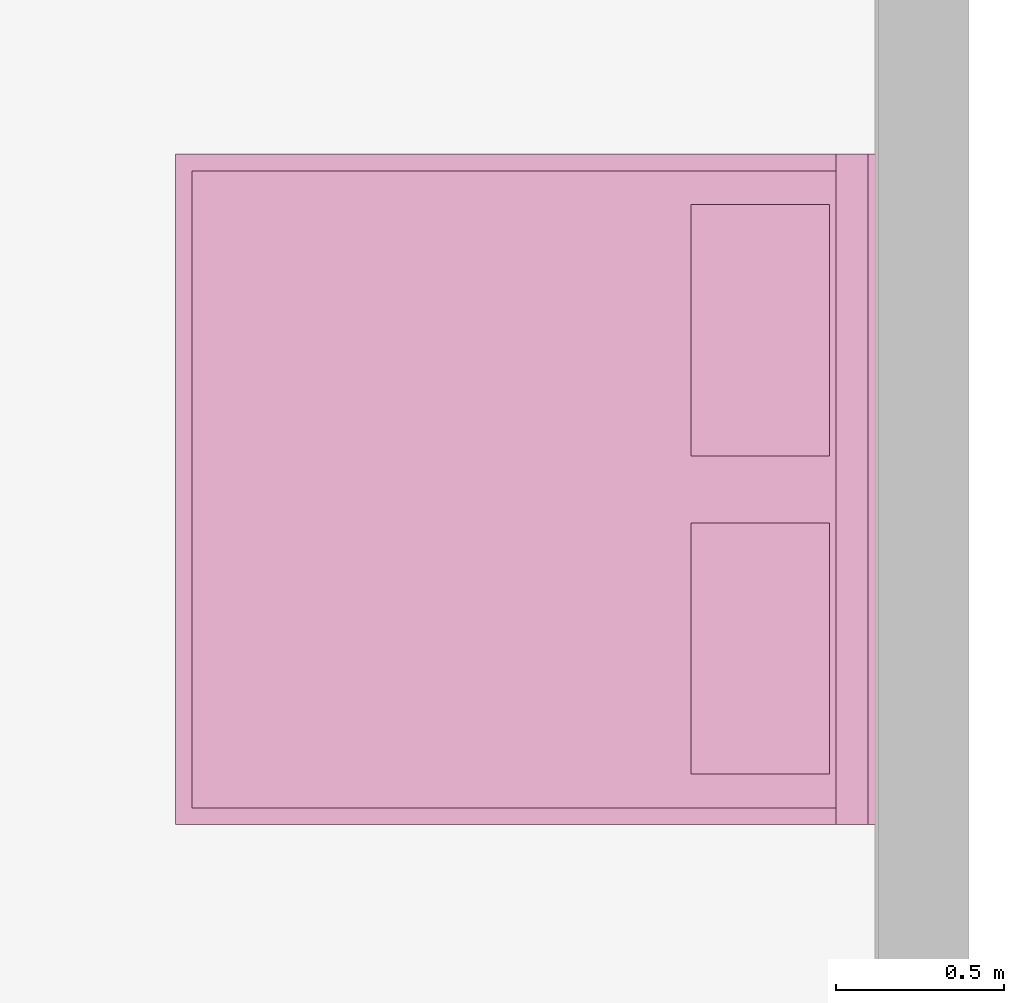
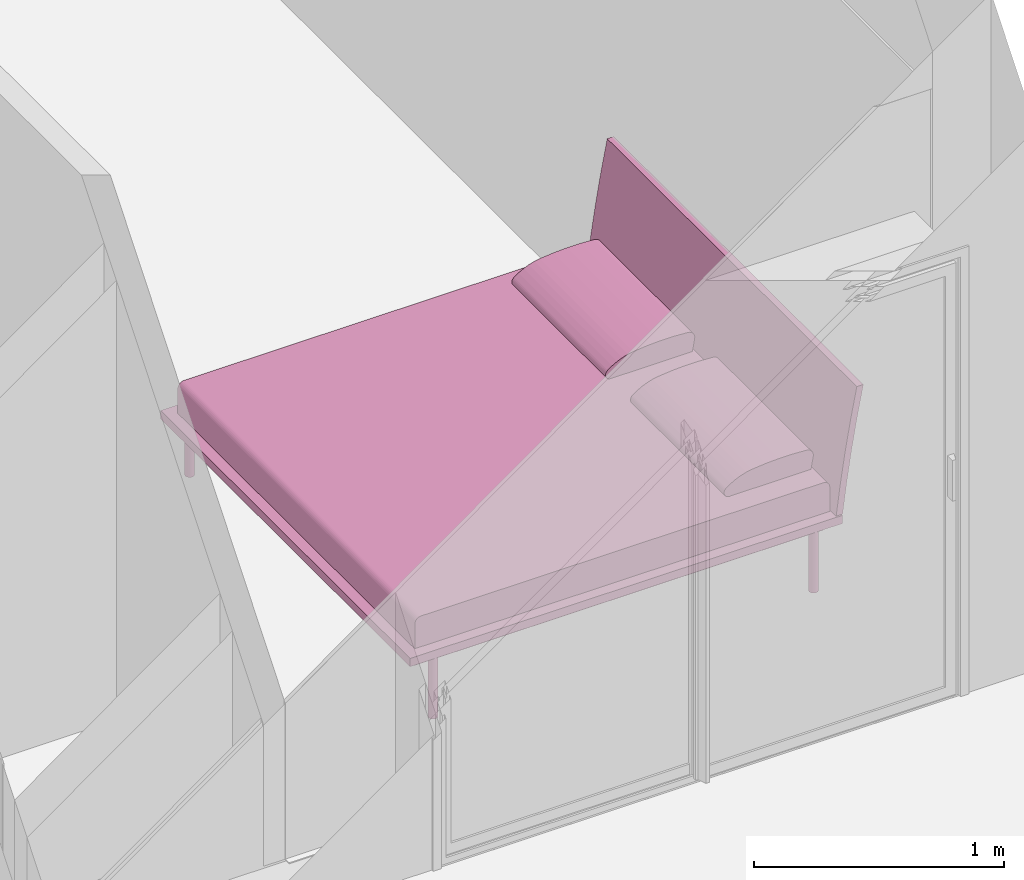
# One storey, part 79 of 81: 1 furnishing.
"""IFC2X3 building model written with IfcOpenShell, lengths in metres."""

from ifc_helpers import new_model, entity, si_unit, converted_unit, derived_unit, direction, frame, frame_2d, origin, origin_2d_with_axis, place, context, subcontext, project, spatial, polyline, circle_curve, parameter, trimmed, segment, composite_curve, rectangle, circle, outline, extrude, source, transform, mapped, material, material_list, type_object, type_shapes, element, save


model = new_model("IFC2X3")

# Units and contexts
model_context = context("Model", 3, precision=1e-05, world=origin(), true_north=direction((6.12303176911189e-17, 1.0)))
body_context = subcontext(model_context, "Body", "Model", "MODEL_VIEW")
ifc_project = project(units=[si_unit("LENGTHUNIT", "METRE"), si_unit("AREAUNIT", "SQUARE_METRE"), si_unit("VOLUMEUNIT", "CUBIC_METRE"), converted_unit("PLANEANGLEUNIT", "DEGREE", entity("IfcRatioMeasure", 0.0174532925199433), si_unit("PLANEANGLEUNIT", "RADIAN"), dimensions=[0, 0, 0, 0, 0, 0, 0]), si_unit("MASSUNIT", "GRAM", prefix="KILO"), derived_unit("MASSDENSITYUNIT", [(si_unit("MASSUNIT", "GRAM", prefix="KILO"), 1), (si_unit("LENGTHUNIT", "METRE"), -3)]), derived_unit("MOMENTOFINERTIAUNIT", [(si_unit("LENGTHUNIT", "METRE"), 4)]), si_unit("TIMEUNIT", "SECOND"), si_unit("FREQUENCYUNIT", "HERTZ"), si_unit("THERMODYNAMICTEMPERATUREUNIT", "DEGREE_CELSIUS"), derived_unit("THERMALTRANSMITTANCEUNIT", [(si_unit("MASSUNIT", "GRAM", prefix="KILO"), 1), (si_unit("THERMODYNAMICTEMPERATUREUNIT", "KELVIN"), -1), (si_unit("TIMEUNIT", "SECOND"), -3)]), derived_unit("VOLUMETRICFLOWRATEUNIT", [(si_unit("LENGTHUNIT", "METRE"), 3), (si_unit("TIMEUNIT", "SECOND"), -1)]), si_unit("ELECTRICCURRENTUNIT", "AMPERE"), si_unit("ELECTRICVOLTAGEUNIT", "VOLT"), si_unit("POWERUNIT", "WATT"), si_unit("FORCEUNIT", "NEWTON", prefix="KILO"), si_unit("ILLUMINANCEUNIT", "LUX"), si_unit("LUMINOUSFLUXUNIT", "LUMEN"), si_unit("LUMINOUSINTENSITYUNIT", "CANDELA"), derived_unit("USERDEFINED", [(si_unit("MASSUNIT", "GRAM", prefix="KILO"), -1), (si_unit("LENGTHUNIT", "METRE"), -2), (si_unit("TIMEUNIT", "SECOND"), 3), (si_unit("LUMINOUSFLUXUNIT", "LUMEN"), 1)]), derived_unit("LINEARVELOCITYUNIT", [(si_unit("LENGTHUNIT", "METRE"), 1), (si_unit("TIMEUNIT", "SECOND"), -1)]), si_unit("PRESSUREUNIT", "PASCAL"), derived_unit("USERDEFINED", [(si_unit("LENGTHUNIT", "METRE"), -2), (si_unit("MASSUNIT", "GRAM", prefix="KILO"), 1), (si_unit("TIMEUNIT", "SECOND"), -2)]), derived_unit("LINEARFORCEUNIT", [(si_unit("MASSUNIT", "GRAM", prefix="KILO"), 1), (si_unit("LENGTHUNIT", "METRE"), 1), (si_unit("TIMEUNIT", "SECOND"), -2), (si_unit("LENGTHUNIT", "METRE"), -1)]), derived_unit("PLANARFORCEUNIT", [(si_unit("MASSUNIT", "GRAM", prefix="KILO"), 1), (si_unit("LENGTHUNIT", "METRE"), 1), (si_unit("TIMEUNIT", "SECOND"), -2), (si_unit("LENGTHUNIT", "METRE"), -2)])], contexts=[model_context])

# Site, building, storey
site_placement = place(None, origin())
site = spatial("IfcSite", under=ifc_project, at=site_placement, Name="Surface", CompositionType="ELEMENT")
building_placement = place(site_placement, origin())
building = spatial("IfcBuilding", under=site, at=building_placement, CompositionType="ELEMENT")
storey_placement = place(building_placement, origin())
storey = spatial("IfcBuildingStorey", under=building, at=storey_placement, Name="01 RDC", CompositionType="ELEMENT", Elevation=-1.94916083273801e-14)

# Furnishing
ifc_material_1 = material(Name="Textile - Bleu pâle")
ifc_material_2 = material(Name="Bois - Teck")
ifc_material_3 = material(Name="Métal - Chrome")
ifc_material_list_1 = material_list([ifc_material_1, ifc_material_2, ifc_material_3])
ifc_material_list_2 = material_list([ifc_material_2, ifc_material_3, ifc_material_1])
furniture_type = type_object("IfcFurnitureType", Name="Lit à tête en bois:2000mm x 2100mm", material=ifc_material_list_2)
shared_shape = source(origin(), body_context, "Body", "SweptSolid", [
    extrude(outline(composite_curve([segment(polyline([(-0.0299999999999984, -0.959899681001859), (0.0900000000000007, -0.959899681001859)]), True, "CONTINUOUS"), segment(polyline([(0.0900000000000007, -0.959899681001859), (0.0899999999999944, 0.959899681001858)]), True, "CONTINUOUS"), segment(polyline([(0.0899999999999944, 0.959899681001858), (-0.0299999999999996, 0.959899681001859)]), True, "CONTINUOUS"), segment(trimmed(circle_curve(frame_2d((-0.0299999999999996, 0.929899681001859), x_axis=(0.0, 1.0)), 0.0299999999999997), [parameter(359.999999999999)], [parameter(89.9999999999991)], True, "PARAMETER"), True, "CONTINUOUS"), segment(polyline([(-0.0599999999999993, 0.929899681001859), (-0.0599999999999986, -0.929899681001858)]), True, "CONTINUOUS"), segment(trimmed(circle_curve(frame_2d((-0.0299999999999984, -0.929899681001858), x_axis=(0.0, 1.0)), 0.0300000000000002), [parameter(89.9999999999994)], [parameter(179.999999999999)], True, "PARAMETER"), True, "CONTINUOUS")], self_intersect=False)), frame((-0.949999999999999, 1.08680538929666, 0.430000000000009), z_axis=(1.0, 0.0, 0.0), x_axis=(0.0, 0.0, -1.0)), (0.0, 0.0, 1.0), 1.9),
    extrude(rectangle(XDim=1.9, YDim=1.89039081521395, at=frame_2d((0.0, -1.11022302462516e-16), x_axis=(1.0, 0.0))), frame((0.0, 1.10150966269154, 0.258019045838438), z_axis=(0.0, 0.0, 1.0), x_axis=(-1.0, 0.0, 0.0)), (0.0, 0.0, 1.0), 0.0419809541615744),
    extrude(rectangle(XDim=2.0, YDim=2.0, at=frame_2d((0.0, -1.11022302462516e-16), x_axis=(1.0, 0.0))), frame((0.0, 1.09670507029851, 0.300000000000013), z_axis=(0.0, 0.0, 1.0), x_axis=(-1.0, 0.0, 0.0)), (0.0, 0.0, 1.0), 0.0399999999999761),
    extrude(outline(composite_curve([segment(trimmed(circle_curve(frame_2d((-7.10943981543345, -1.13522134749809), x_axis=(1.0, 0.0)), 7.22091076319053), [parameter(6.64226903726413)], [parameter(11.4642297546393)], True, "PARAMETER"), True, "CONTINUOUS"), segment(polyline([(-0.0325935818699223, 0.299978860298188), (-0.063206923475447, 0.299978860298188)]), True, "CONTINUOUS"), segment(trimmed(circle_curve(frame_2d((-7.10943981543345, -1.13522134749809), x_axis=(1.0, 0.0)), 7.19091076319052), [parameter(6.67010574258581)], [parameter(11.512710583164)], True, "PARAMETER"), False, "CONTINUOUS"), segment(polyline([(0.0327984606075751, -0.299978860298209), (0.0630020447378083, -0.299978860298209)]), True, "CONTINUOUS")], self_intersect=False)), frame((-1.0, 0.0632069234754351, 0.645983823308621), z_axis=(1.0, 0.0, 0.0), x_axis=(0.0, 1.0, 0.0)), (0.0, 0.0, 1.0), 2.0),
    extrude(circle(Radius=0.0200000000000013, at=origin_2d_with_axis()), frame((-0.97499999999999, 1.97670507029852, 0.0), z_axis=(0.0, 0.0, 1.0), x_axis=(-1.0, 0.0, 0.0)), (0.0, 0.0, 1.0), 0.300000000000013),
    extrude(circle(Radius=0.0200000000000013, at=origin_2d_with_axis()), frame((0.975000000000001, 1.9767050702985, 0.0)), (0.0, 0.0, 1.0), 0.300000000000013),
    extrude(circle(Radius=0.0200000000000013, at=frame_2d((0.0, -3.38395977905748e-17), x_axis=(1.0, 0.0))), frame((-0.974999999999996, 0.21670507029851, 0.0), z_axis=(0.0, 0.0, 1.0), x_axis=(-1.0, 0.0, 0.0)), (0.0, 0.0, 1.0), 0.300000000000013),
    extrude(circle(Radius=0.0200000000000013, at=frame_2d((0.0, -3.38395977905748e-17), x_axis=(1.0, 0.0))), frame((0.974999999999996, 0.21670507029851, 0.0)), (0.0, 0.0, 1.0), 0.300000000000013),
    extrude(outline(composite_curve([segment(trimmed(circle_curve(frame_2d((-0.0516701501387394, -1.1552853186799), x_axis=(1.0, 0.0)), 1.20993961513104), [parameter(82.8980080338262)], [parameter(94.8313981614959)], True, "PARAMETER"), True, "CONTINUOUS"), segment(trimmed(circle_curve(frame_2d((-0.150630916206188, 0.0155121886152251), x_axis=(1.0, 0.0)), 0.0349672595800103), [parameter(94.8313981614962)], [parameter(189.999999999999)], True, "PARAMETER"), True, "CONTINUOUS"), segment(polyline([(-0.185066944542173, 0.00944018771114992), (-0.174572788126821, -0.0500751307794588)]), True, "CONTINUOUS"), segment(polyline([(-0.174572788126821, -0.0500751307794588), (0.197281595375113, -0.0500751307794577)]), True, "CONTINUOUS"), segment(trimmed(circle_curve(frame_2d((0.20214826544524, -0.025015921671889), x_axis=(1.0, 0.0)), 0.0255274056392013), [parameter(259.009576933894)], [parameter(51.5780573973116)], True, "PARAMETER"), True, "CONTINUOUS"), segment(trimmed(circle_curve(frame_2d((0.0680964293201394, -0.194014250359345), x_axis=(1.0, 0.0)), 0.241236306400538), [parameter(51.5780573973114)], [parameter(82.8980080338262)], True, "PARAMETER"), True, "CONTINUOUS")], self_intersect=False)), frame((-0.849999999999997, 0.330547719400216, 0.545049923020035), z_axis=(1.0, 0.0, 0.0), x_axis=(0.0, 1.0, 0.0)), (0.0, 0.0, 1.0), 0.749837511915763),
    extrude(outline(composite_curve([segment(trimmed(circle_curve(frame_2d((-0.0516701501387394, -1.1552853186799), x_axis=(1.0, 0.0)), 1.20993961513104), [parameter(82.8980080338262)], [parameter(94.8313981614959)], True, "PARAMETER"), True, "CONTINUOUS"), segment(trimmed(circle_curve(frame_2d((-0.150630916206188, 0.0155121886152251), x_axis=(1.0, 0.0)), 0.0349672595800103), [parameter(94.831398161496)], [parameter(189.999999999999)], True, "PARAMETER"), True, "CONTINUOUS"), segment(polyline([(-0.185066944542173, 0.00944018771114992), (-0.174572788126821, -0.0500751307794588)]), True, "CONTINUOUS"), segment(polyline([(-0.174572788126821, -0.0500751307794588), (0.197281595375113, -0.0500751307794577)]), True, "CONTINUOUS"), segment(trimmed(circle_curve(frame_2d((0.20214826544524, -0.025015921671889), x_axis=(1.0, 0.0)), 0.0255274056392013), [parameter(259.009576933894)], [parameter(51.5780573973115)], True, "PARAMETER"), True, "CONTINUOUS"), segment(trimmed(circle_curve(frame_2d((0.0680964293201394, -0.194014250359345), x_axis=(1.0, 0.0)), 0.241236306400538), [parameter(51.5780573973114)], [parameter(82.8980080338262)], True, "PARAMETER"), True, "CONTINUOUS")], self_intersect=False)), frame((0.1, 0.330547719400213, 0.545049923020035), z_axis=(1.0, 0.0, 0.0), x_axis=(0.0, 1.0, 0.0)), (0.0, 0.0, 1.0), 0.749999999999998),
])
type_shapes(furniture_type, [shared_shape])
furnishing_placement = place(storey_placement, frame((13.4265615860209, -1.78096095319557, -0.01), z_axis=(0.0, 0.0, 1.0), x_axis=(0.0, 1.0, 0.0)))
element("IfcFurnishingElement", 1, at=furnishing_placement, inside=storey, type_object=furniture_type, material=ifc_material_list_1, Name="Lit à tête en bois:2000mm x 2100mm", ObjectType="Lit à tête en bois:2000mm x 2100mm", context=body_context, shape_type="MappedRepresentation", body=[
    mapped(shared_shape, transform((0.0, 0.0, 0.0), scale=1.0)),
])

save(model, "model.ifc")
